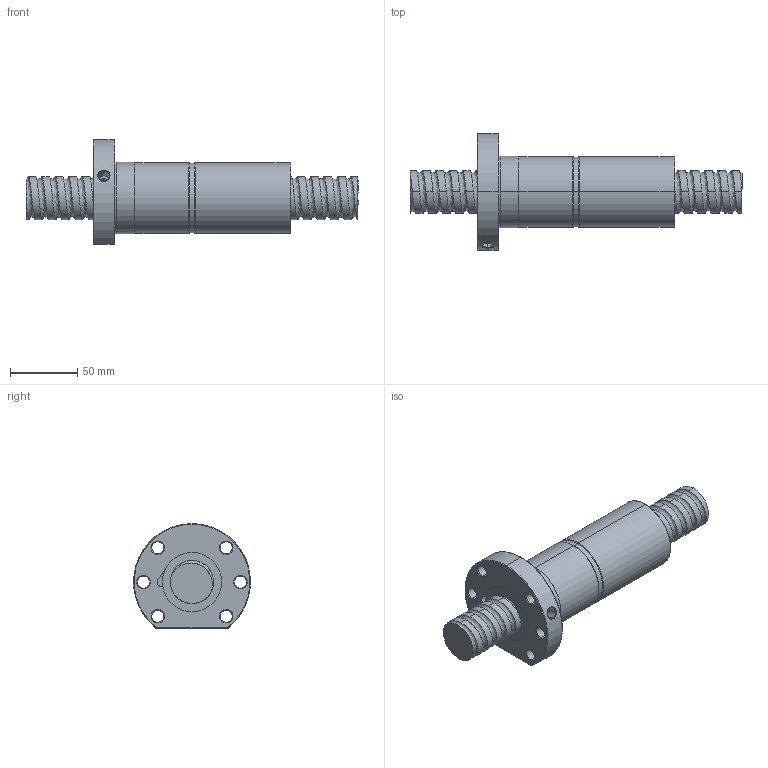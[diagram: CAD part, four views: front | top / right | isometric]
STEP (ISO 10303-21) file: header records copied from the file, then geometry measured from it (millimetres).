
FILE_DESCRIPTION (( 'STEP AP214' ), '1' );
FILE_NAME ('FDDC03210T5-D-C.STEP', '2010-07-06T05:21:23', ( 'XPAUTO' ), ( 'XPAUTO' ), 'SwSTEP 2.0', 'SolidWorks 2007', '' );
FILE_SCHEMA (( 'AUTOMOTIVE_DESIGN' ));
Length unit declared in the file: millimetre
Products named in the file (3): FDDC03210T5-D-C.sldasm-Part-1_預設; FDDC03210T5-D-C; FDDC03210T5-D-C.sldasm-Part-2_預設
Assembly tree (2 placements, depth 2):
  FDDC03210T5-D-C
    FDDC03210T5-D-C.sldasm-Part-2_預設
    FDDC03210T5-D-C.sldasm-Part-1_預設
Bounding box: 247 x 86.73 x 78 mm (x, y, z)
Volume: 432988.6 mm3; surface area: 83115.2 mm2
Topology: 2 solids, 2 shells, 150 faces, 379 edges, 238 vertices
Faces by surface type: cylinder 93, cone 24, plane 19, torus 9, bspline 5
Entity records: 31565 total; most frequent: CARTESIAN_POINT 28015, ORIENTED_EDGE 758, DIRECTION 675, EDGE_CURVE 379, AXIS2_PLACEMENT_3D 273, VERTEX_POINT 238, EDGE_LOOP 171, FACE_OUTER_BOUND 150
